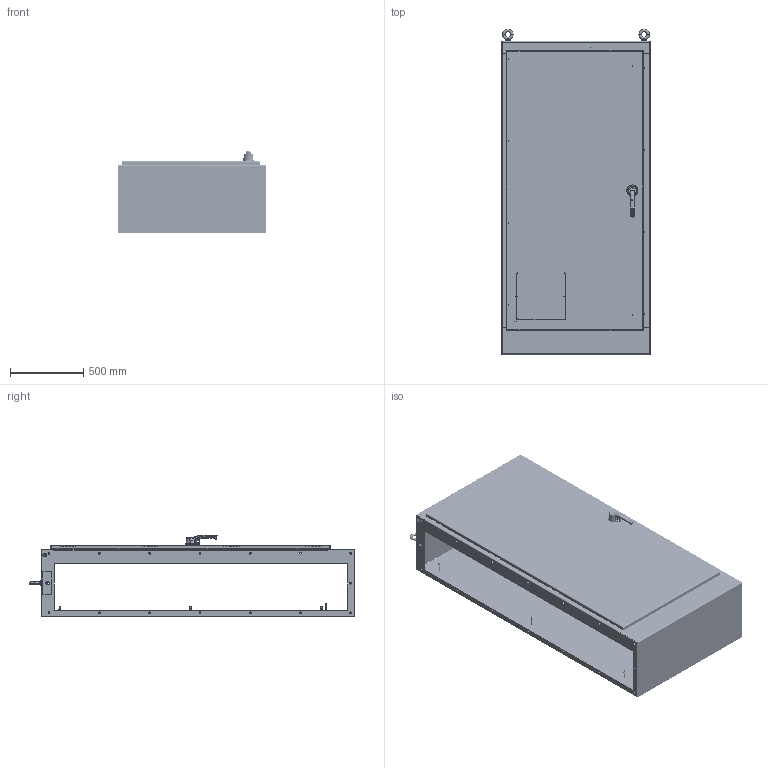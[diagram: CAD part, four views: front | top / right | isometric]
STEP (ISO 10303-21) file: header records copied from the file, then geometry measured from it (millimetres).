
FILE_DESCRIPTION (( 'STEP AP203' ), '1' );
FILE_NAME ('au84x4018bsslp.STEP', '2020-06-25T21:09:22', ( '' ), ( '' ), 'SwSTEP 2.0', 'SolidWorks 2016', '' );
FILE_SCHEMA (( 'CONFIG_CONTROL_DESIGN' ));
Length unit declared in the file: inch
Products named in the file (73): 87567417; 22101014; 89183199; 26174001; 89183216; 26273019_26273019; 35130001_SI-HHMS 0.25-28x0.375x0.375-N; 89183238; 89183814; 89183593; 89176522; 60127137; 99402203_99402203; 89176507; 35124002_35124002; 87401709; 30101003; 99401452; 89183521_26149001; 89106811; 60127134_60127134; 87543196; 89183237; 89176717; 99404790_Config-Drawing; 89176503; 27115001; au84x4018bsslp; 89179224; 89176699; 89183592; 87949743_AFTER WELD; 26118002_26118002; 89183247; 89183590; 89106812_SETTING 2; 87566030; 35131001_35131001; 60127215; 60127102_60127102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
Assembly tree (112 placements, depth 4):
  au84x4018bsslp
    89183596
      89183815
      89183595
        89183594
        87921775_Config-Drawing
      89183593
        89183592
        99402203_99402203
        99404790_Config-Drawing  x3
        87949743_AFTER WELD  x2
      89183590
        89183814
        99411211  x2
      89183216
      89183199  x2
      87573197  x2
      89106531  x2
      89183198  x2
      87830040_AFTER WELD  x6
    89183238
      89183237
        89183195
        99414350_Config-Drawing  x3
        87751114_87751114  x2
        60127102_60127102  x4
        89183214
      23418001
      89176699
        26273019_26273019
        30101003  x2
        89176717
        99401452
      26274019_26274019
        26273019_26273019
        30101003  x2
        27115001
        22318002
      89106812_SETTING 2  x2
        89106810
        89106811
        99411273_99411273
      26118002_26118002  x2
      87567405_87567405
        87567417
        27155001
        87567421
        87566030
        87567410
      99401300_99401300  x2
      35130001_SI-HHMS 0.25-28x0.375x0.375-N  x2
      35124002_35124002
      87544899
      22101014
      35131001_35131001
    60127215  x4
      60127134_60127134
      60127135_installed position SS
      60127199_60127199
      87543196
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Bounding box: 1009.65 x 2219.36 x 556.96 mm (x, y, z)
Volume: 16977047.8 mm3; surface area: 13779342.6 mm2
Topology: 118 solids, 118 shells, 6933 faces, 16919 edges, 10335 vertices
Faces by surface type: plane 2622, cylinder 1948, bspline 985, cone 672, torus 624, sphere 82
Entity records: 179955 total; most frequent: CARTESIAN_POINT 75371, ORIENTED_EDGE 20676, DIRECTION 18864, EDGE_CURVE 10338, AXIS2_PLACEMENT_3D 6984, VERTEX_POINT 6404, VECTOR 4896, LINE 4896
